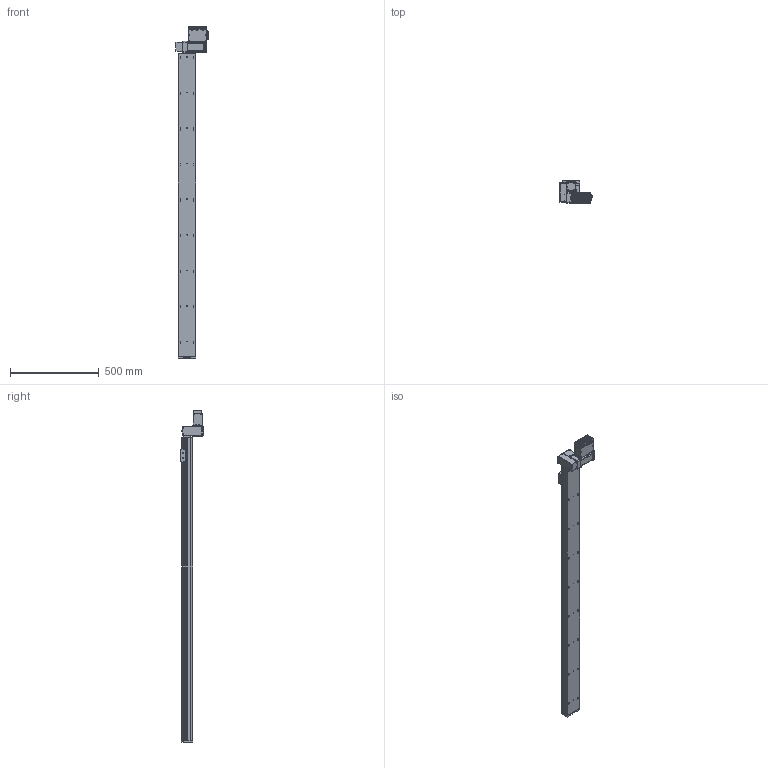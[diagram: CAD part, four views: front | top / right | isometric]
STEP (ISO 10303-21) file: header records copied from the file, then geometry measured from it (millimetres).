
FILE_DESCRIPTION (( 'STEP AP203' ), '1' );
FILE_NAME ('S10 TBN RH S1800.STEP', '2012-06-14T08:50:46', ( 'Conseil Régional Haute-Normandie' ), ( 'Conseil Régional Haute-Normandie' ), 'SwSTEP 2.0', 'SolidWorks 2010', '' );
FILE_SCHEMA (( 'CONFIG_CONTROL_DESIGN' ));
Length unit declared in the file: millimetre
Products named in the file (30): embout; palette tbn; renvoi LH_Default; Assem1_7; Couvercle_3; Moteur 60BLDC90A_3; T_X2_00F4_X0_le fond_3; Colonnette ronde_3; T_X2_00F4_X0_le Arri_X2_00E8_X0_re_5; vis M5 L5_Default; Vis TF 3 torkx; S10 TBN RH S1800; axe 1700; cache t皻e axe_Default; cache t皻e_Default; Copie de plaque de bout s10_Default^S10 TBN RH S1800; Plaque racord_Default; T_X2_00F4_X0_le contre le moteur_5; BU41 Carte Alimentation P05_3; Colonnette_3; BU45 Carte d''axe A11_5; Connecteur rond D10 3cts_5; Connecteur rond D12 4cts_5; Sub D 9cts 90_X2_00B_X0__3; Radiateur profil_X2_00E9_X0_ 100x25_3; Vis M5 L16-2_Default_1; T_X2_00F4_X0_le lat_X2_00E9_X0_rale_5; Vis TF 3 torkx_1_1; Cvis M5 L30_Default; vis M5 L12_Default
Assembly tree (69 placements, depth 3):
  S10 TBN RH S1800
    Vis TF 3 torkx  x7
    vis M5 L12_Default  x4
    palette tbn
    renvoi LH_Default
    axe 1700
    vis M5 L5_Default  x4
    Cvis M5 L30_Default  x2
    cache t皻e axe_Default
    Copie de plaque de bout s10_Default^S10 TBN RH S1800
    embout
    Plaque racord_Default
    Vis M5 L16-2_Default_1  x4
    cache t皻e_Default  x2
    Assem1_7
      Vis TF 3 torkx_1_1  x21
      Colonnette ronde_3
      Moteur 60BLDC90A_3
      Colonnette_3  x2
      Sub D 9cts 90_X2_00B_X0__3
      T_X2_00F4_X0_le lat_X2_00E9_X0_rale_5  x2
      Radiateur profil_X2_00E9_X0_ 100x25_3
      Connecteur rond D12 4cts_5
      Connecteur rond D10 3cts_5  x2
      T_X2_00F4_X0_le fond_3
      BU45 Carte d''axe A11_5
      BU41 Carte Alimentation P05_3
      Couvercle_3
      T_X2_00F4_X0_le contre le moteur_5
      T_X2_00F4_X0_le Arri_X2_00E8_X0_re_5
Bounding box: 189.8 x 124.75 x 1866.5 mm (x, y, z)
Volume: 9634843.6 mm3; surface area: 1114951.1 mm2
Topology: 68 solids, 68 shells, 2515 faces, 6244 edges, 4038 vertices
Faces by surface type: plane 1211, cylinder 1073, cone 188, bspline 40, torus 3
Entity records: 49316 total; most frequent: CARTESIAN_POINT 8842, DIRECTION 7947, ORIENTED_EDGE 7208, EDGE_CURVE 3604, AXIS2_PLACEMENT_3D 2954, VERTEX_POINT 2354, VECTOR 2039, LINE 2039
